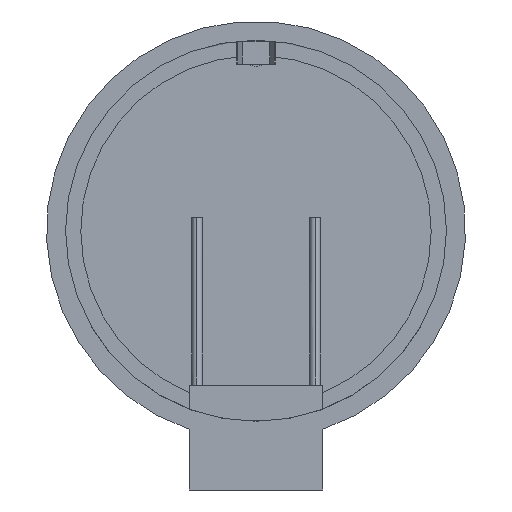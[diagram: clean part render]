
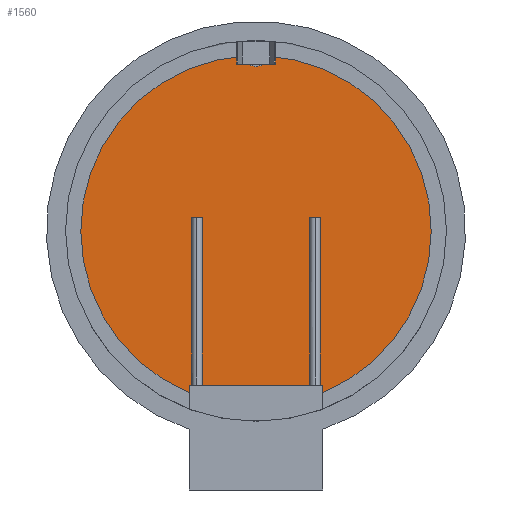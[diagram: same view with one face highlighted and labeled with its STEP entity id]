
A CAD part, front view. The second image highlights one B-rep face of the part: STEP entity #1560.
In plain terms, the highlighted planar face has unit normal (0, -1, 0).
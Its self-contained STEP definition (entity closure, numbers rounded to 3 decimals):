
#461=CARTESIAN_POINT('',(0.,-86.,0.));
#462=DIRECTION('',(0.,-1.,0.));
#463=DIRECTION('',(0.38,0.,-0.925));
#464=AXIS2_PLACEMENT_3D('',#461,#462,#463);
#479=CARTESIAN_POINT('',(0.,-86.,0.));
#480=DIRECTION('',(0.,-1.,0.));
#481=DIRECTION('',(-0.061,0.,0.998));
#482=AXIS2_PLACEMENT_3D('',#479,#480,#481);
#596=DIRECTION('',(-1.,0.,0.));
#597=VECTOR('',#596,350.);
#598=CARTESIAN_POINT('',(175.,-86.,-405.));
#599=LINE('',#598,#597);
#600=DIRECTION('',(0.,0.,1.));
#601=VECTOR('',#600,20.412);
#602=CARTESIAN_POINT('',(-175.,-86.,-425.412));
#603=LINE('',#602,#601);
#604=CARTESIAN_POINT('',(0.,-86.,459.));
#605=DIRECTION('',(0.,1.,0.));
#606=DIRECTION('',(-1.,0.,0.));
#607=AXIS2_PLACEMENT_3D('',#604,#605,#606);
#609=CARTESIAN_POINT('',(0.,-86.,459.));
#610=DIRECTION('',(0.,1.,0.));
#611=DIRECTION('',(1.,0.,0.));
#612=AXIS2_PLACEMENT_3D('',#609,#610,#611);
#614=CARTESIAN_POINT('',(0.,-86.,459.));
#615=DIRECTION('',(0.,1.,0.));
#616=DIRECTION('',(1.,0.,0.005));
#617=AXIS2_PLACEMENT_3D('',#614,#615,#616);
#619=DIRECTION('',(0.,0.,-1.));
#620=VECTOR('',#619,20.412);
#621=CARTESIAN_POINT('',(175.,-86.,-405.));
#622=LINE('',#621,#620);
#867=CARTESIAN_POINT('',(28.,-86.,459.));
#868=CARTESIAN_POINT('',(-28.,-86.,459.));
#869=VERTEX_POINT('',#867);
#870=VERTEX_POINT('',#868);
#871=CARTESIAN_POINT('',(-28.,-86.,459.147));
#872=VERTEX_POINT('',#871);
#877=CARTESIAN_POINT('',(28.,-86.,459.147));
#878=VERTEX_POINT('',#877);
#919=CARTESIAN_POINT('',(175.,-86.,-405.));
#920=CARTESIAN_POINT('',(-175.,-86.,-405.));
#921=VERTEX_POINT('',#919);
#922=VERTEX_POINT('',#920);
#969=CARTESIAN_POINT('',(175.,-86.,-425.412));
#970=VERTEX_POINT('',#969);
#971=CARTESIAN_POINT('',(-175.,-86.,-425.412));
#972=VERTEX_POINT('',#971);
#1542=CARTESIAN_POINT('',(0.,-86.,0.));
#1543=DIRECTION('',(0.,-1.,0.));
#1544=DIRECTION('',(1.,0.,0.));
#1545=AXIS2_PLACEMENT_3D('',#1542,#1543,#1544);
#1546=PLANE('',#1545);
#1547=ORIENTED_EDGE('',*,*,#1515,.T.);
#1548=ORIENTED_EDGE('',*,*,#1381,.F.);
#1549=ORIENTED_EDGE('',*,*,#1440,.F.);
#1551=ORIENTED_EDGE('',*,*,#1550,.F.);
#1553=ORIENTED_EDGE('',*,*,#1552,.F.);
#1555=ORIENTED_EDGE('',*,*,#1554,.F.);
#1556=ORIENTED_EDGE('',*,*,#1425,.F.);
#1557=ORIENTED_EDGE('',*,*,#1456,.F.);
#1558=EDGE_LOOP('',(#1547,#1548,#1549,#1551,#1553,#1555,#1556,#1557));
#1559=FACE_OUTER_BOUND('',#1558,.F.);
#465=CIRCLE('',#464,460.);
#483=CIRCLE('',#482,460.);
#608=CIRCLE('',#607,28.);
#613=CIRCLE('',#612,28.);
#618=CIRCLE('',#617,28.);
#1381=EDGE_CURVE('',#972,#922,#603,.T.);
#1425=EDGE_CURVE('',#970,#878,#465,.T.);
#1440=EDGE_CURVE('',#872,#972,#483,.T.);
#1456=EDGE_CURVE('',#921,#970,#622,.T.);
#1515=EDGE_CURVE('',#921,#922,#599,.T.);
#1550=EDGE_CURVE('',#870,#872,#608,.T.);
#1552=EDGE_CURVE('',#869,#870,#613,.T.);
#1554=EDGE_CURVE('',#878,#869,#618,.T.);
#1560=ADVANCED_FACE('',(#1559),#1546,.T.);
